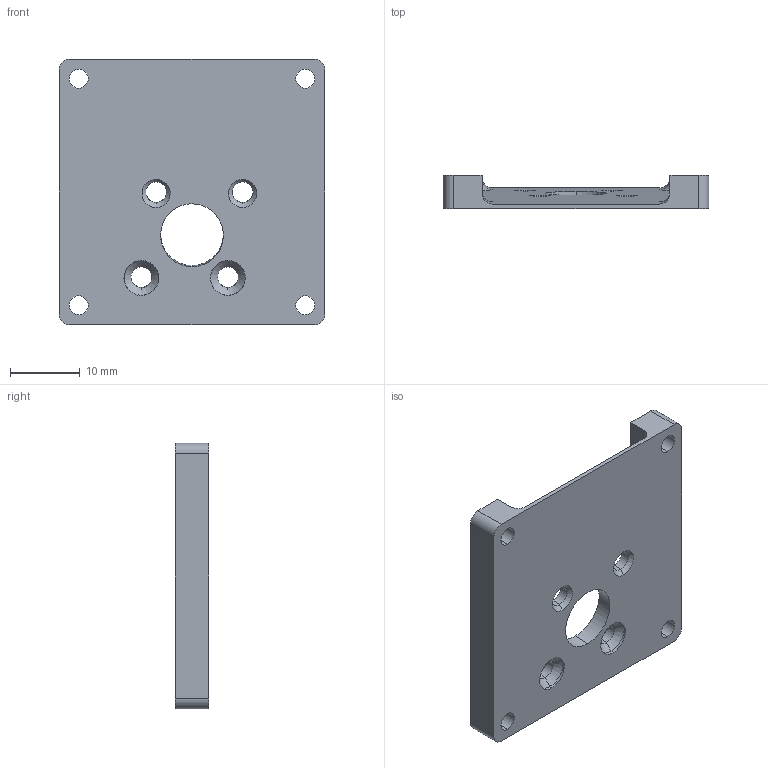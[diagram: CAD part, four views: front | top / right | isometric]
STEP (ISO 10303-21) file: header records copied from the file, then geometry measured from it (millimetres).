
FILE_DESCRIPTION (( 'STEP AP214' ), '1' );
FILE_NAME ('H-Spin Motor Mount R1.1 - with inner fillet.STEP', '2020-07-16T20:20:35', ( 'Kurtis' ), ( '' ), 'SwSTEP 2.0', 'SolidWorks 2015', '' );
FILE_SCHEMA (( 'AUTOMOTIVE_DESIGN' ));
Length unit declared in the file: millimetre
Products named in the file (1): H-Spin Motor Mount R1.1 - with inner fillet
Bounding box: 38.1 x 4.76 x 38.1 mm (x, y, z)
Volume: 3036 mm3; surface area: 3720.2 mm2
Topology: 1 solids, 1 shells, 78 faces, 200 edges, 120 vertices
Faces by surface type: cylinder 44, plane 18, cone 8, torus 4, sphere 4
Entity records: 2388 total; most frequent: CARTESIAN_POINT 461, DIRECTION 406, ORIENTED_EDGE 392, EDGE_CURVE 196, AXIS2_PLACEMENT_3D 153, VERTEX_POINT 120, LINE 100, VECTOR 100
